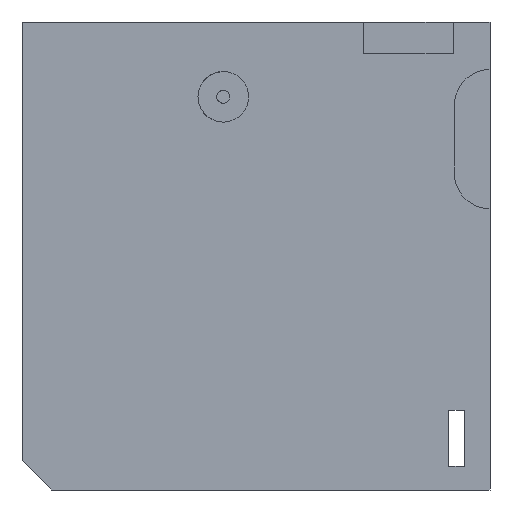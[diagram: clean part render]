
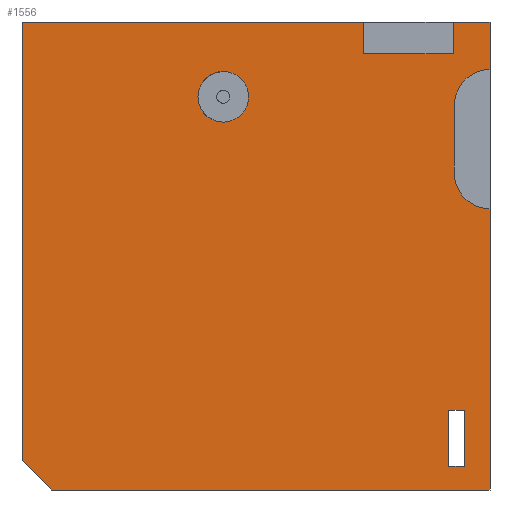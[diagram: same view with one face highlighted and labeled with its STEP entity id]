
A CAD part, left-side view. The second image highlights one B-rep face of the part: STEP entity #1556.
In plain terms, the highlighted planar face has unit normal (-1, 0, 0).
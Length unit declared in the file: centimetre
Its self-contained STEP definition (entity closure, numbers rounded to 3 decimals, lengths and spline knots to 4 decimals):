
#11 = CARTESIAN_POINT ( 'NONE',  ( 0., 1000., 1000. ) ) ;
#12 = EDGE_CURVE ( 'NONE', #433, #1029, #854, .T. ) ;
#51 = VERTEX_POINT ( 'NONE', #863 ) ;
#53 = VECTOR ( 'NONE', #684, 100. ) ;
#64 = EDGE_LOOP ( 'NONE', ( #168, #977, #487, #908, #1196, #983, #1407, #520, #1210, #169, #783, #1074, #1233 ) ) ;
#67 = VERTEX_POINT ( 'NONE', #105 ) ;
#85 = LINE ( 'NONE', #589, #243 ) ;
#92 = DIRECTION ( 'NONE',  ( -1., 0., 0. ) ) ;
#94 = CARTESIAN_POINT ( 'NONE',  ( 0., 0., 677.1642 ) ) ;
#105 = CARTESIAN_POINT ( 'NONE',  ( 0., 936.503, 0. ) ) ;
#121 = DIRECTION ( 'NONE',  ( 1., 0., 0. ) ) ;
#139 = FACE_BOUND ( 'NONE', #1091, .T. ) ;
#154 = DIRECTION ( 'NONE',  ( 0., 0., -1. ) ) ;
#168 = ORIENTED_EDGE ( 'NONE', *, *, #1618, .F. ) ;
#169 = ORIENTED_EDGE ( 'NONE', *, *, #630, .F. ) ;
#173 = LINE ( 'NONE', #561, #1532 ) ;
#177 = VERTEX_POINT ( 'NONE', #486 ) ;
#210 = DIRECTION ( 'NONE',  ( -1., 0., 0. ) ) ;
#220 = CARTESIAN_POINT ( 'NONE',  ( 0., 54.7477, 50.3435 ) ) ;
#230 = CARTESIAN_POINT ( 'NONE',  ( 0., 569.9859, 786.0383 ) ) ;
#243 = VECTOR ( 'NONE', #1102, 100. ) ;
#254 = EDGE_CURVE ( 'NONE', #847, #971, #1513, .T. ) ;
#268 = AXIS2_PLACEMENT_3D ( 'NONE', #1220, #210, #1598 ) ;
#271 = VECTOR ( 'NONE', #1232, 100. ) ;
#275 = LINE ( 'NONE', #658, #774 ) ;
#284 = CARTESIAN_POINT ( 'NONE',  ( 0., 54.7477, 50.3435 ) ) ;
#305 = VERTEX_POINT ( 'NONE', #220 ) ;
#306 = EDGE_CURVE ( 'NONE', #475, #51, #1109, .T. ) ;
#324 = VECTOR ( 'NONE', #1605, 100. ) ;
#326 = DIRECTION ( 'NONE',  ( 0., -1., 0. ) ) ;
#332 = ORIENTED_EDGE ( 'NONE', *, *, #726, .F. ) ;
#344 = DIRECTION ( 'NONE',  ( 0., 0., -1. ) ) ;
#348 = VECTOR ( 'NONE', #725, 100. ) ;
#352 = DIRECTION ( 'NONE',  ( 0., -1., 0. ) ) ;
#359 = EDGE_CURVE ( 'NONE', #1023, #305, #1243, .T. ) ;
#360 = FACE_OUTER_BOUND ( 'NONE', #64, .T. ) ;
#372 = EDGE_LOOP ( 'NONE', ( #332, #1444 ) ) ;
#390 = CARTESIAN_POINT ( 'NONE',  ( 0., 1000., 63.497 ) ) ;
#396 = CARTESIAN_POINT ( 'NONE',  ( 0., 78.6431, 1000. ) ) ;
#402 = EDGE_CURVE ( 'NONE', #305, #941, #1536, .T. ) ;
#423 = VECTOR ( 'NONE', #344, 100. ) ;
#432 = VERTEX_POINT ( 'NONE', #390 ) ;
#433 = VERTEX_POINT ( 'NONE', #775 ) ;
#448 = CARTESIAN_POINT ( 'NONE',  ( 0., 1000., 1000. ) ) ;
#460 = CARTESIAN_POINT ( 'NONE',  ( 0., 76.2309, 677.1642 ) ) ;
#472 = CARTESIAN_POINT ( 'NONE',  ( 0., 1000., 1000. ) ) ;
#475 = VERTEX_POINT ( 'NONE', #396 ) ;
#478 = AXIS2_PLACEMENT_3D ( 'NONE', #11, #121, #617 ) ;
#486 = CARTESIAN_POINT ( 'NONE',  ( 0., 0., 898.4406 ) ) ;
#487 = ORIENTED_EDGE ( 'NONE', *, *, #712, .F. ) ;
#494 = EDGE_CURVE ( 'NONE', #780, #1023, #173, .T. ) ;
#505 = DIRECTION ( 'NONE',  ( 0., 0., 1. ) ) ;
#507 = AXIS2_PLACEMENT_3D ( 'NONE', #94, #760, #1474 ) ;
#520 = ORIENTED_EDGE ( 'NONE', *, *, #997, .F. ) ;
#528 = VERTEX_POINT ( 'NONE', #821 ) ;
#541 = DIRECTION ( 'NONE',  ( 0., -1., 0. ) ) ;
#561 = CARTESIAN_POINT ( 'NONE',  ( 0., 54.7477, 170.417 ) ) ;
#582 = CARTESIAN_POINT ( 'NONE',  ( 0., 88.2462, 170.417 ) ) ;
#589 = CARTESIAN_POINT ( 'NONE',  ( 0., 1000., 1000. ) ) ;
#595 = DIRECTION ( 'NONE',  ( 0., 0., 1. ) ) ;
#611 = CARTESIAN_POINT ( 'NONE',  ( 0., 270.1484, 931.7722 ) ) ;
#617 = DIRECTION ( 'NONE',  ( 0., 0., -1. ) ) ;
#630 = EDGE_CURVE ( 'NONE', #676, #433, #1308, .T. ) ;
#640 = CIRCLE ( 'NONE', #268, 54.0828 ) ;
#648 = EDGE_CURVE ( 'NONE', #177, #855, #724, .T. ) ;
#658 = CARTESIAN_POINT ( 'NONE',  ( 0., 78.6431, 931.7722 ) ) ;
#676 = VERTEX_POINT ( 'NONE', #829 ) ;
#684 = DIRECTION ( 'NONE',  ( 0., -1., 0. ) ) ;
#712 = EDGE_CURVE ( 'NONE', #855, #847, #1351, .T. ) ;
#714 = VERTEX_POINT ( 'NONE', #1362 ) ;
#722 = VECTOR ( 'NONE', #505, 100. ) ;
#723 = EDGE_CURVE ( 'NONE', #51, #177, #969, .T. ) ;
#724 = CIRCLE ( 'NONE', #1093, 76.2309 ) ;
#725 = DIRECTION ( 'NONE',  ( 0., -0.707, -0.707 ) ) ;
#726 = EDGE_CURVE ( 'NONE', #1505, #749, #640, .T. ) ;
#749 = VERTEX_POINT ( 'NONE', #230 ) ;
#760 = DIRECTION ( 'NONE',  ( -1., 0., 0. ) ) ;
#770 = EDGE_CURVE ( 'NONE', #528, #475, #976, .T. ) ;
#774 = VECTOR ( 'NONE', #326, 100. ) ;
#775 = CARTESIAN_POINT ( 'NONE',  ( 0., 270.1484, 1000. ) ) ;
#778 = VECTOR ( 'NONE', #352, 100. ) ;
#780 = VERTEX_POINT ( 'NONE', #582 ) ;
#782 = CARTESIAN_POINT ( 'NONE',  ( 0., 0., 1000. ) ) ;
#783 = ORIENTED_EDGE ( 'NONE', *, *, #1438, .T. ) ;
#821 = CARTESIAN_POINT ( 'NONE',  ( 0., 78.6431, 931.7722 ) ) ;
#829 = CARTESIAN_POINT ( 'NONE',  ( 0., 1000., 1000. ) ) ;
#838 = DIRECTION ( 'NONE',  ( -1., 0., 0. ) ) ;
#839 = CARTESIAN_POINT ( 'NONE',  ( 0., 76.2309, 822.2098 ) ) ;
#841 = LINE ( 'NONE', #850, #348 ) ;
#847 = VERTEX_POINT ( 'NONE', #460 ) ;
#850 = CARTESIAN_POINT ( 'NONE',  ( 0., 1000., 63.497 ) ) ;
#853 = CARTESIAN_POINT ( 'NONE',  ( 0., 78.6431, 931.7722 ) ) ;
#854 = LINE ( 'NONE', #611, #271 ) ;
#855 = VERTEX_POINT ( 'NONE', #992 ) ;
#863 = CARTESIAN_POINT ( 'NONE',  ( 0., 0., 1000. ) ) ;
#873 = CARTESIAN_POINT ( 'NONE',  ( 0., 1000., 0. ) ) ;
#908 = ORIENTED_EDGE ( 'NONE', *, *, #648, .F. ) ;
#927 = VECTOR ( 'NONE', #1251, 100. ) ;
#934 = EDGE_CURVE ( 'NONE', #941, #780, #1147, .T. ) ;
#941 = VERTEX_POINT ( 'NONE', #1122 ) ;
#969 = LINE ( 'NONE', #1582, #423 ) ;
#971 = VERTEX_POINT ( 'NONE', #1051 ) ;
#976 = LINE ( 'NONE', #853, #1612 ) ;
#977 = ORIENTED_EDGE ( 'NONE', *, *, #254, .F. ) ;
#983 = ORIENTED_EDGE ( 'NONE', *, *, #306, .F. ) ;
#992 = CARTESIAN_POINT ( 'NONE',  ( 0., 76.2309, 822.2098 ) ) ;
#997 = EDGE_CURVE ( 'NONE', #1029, #528, #275, .T. ) ;
#1004 = VECTOR ( 'NONE', #154, 100. ) ;
#1023 = VERTEX_POINT ( 'NONE', #1463 ) ;
#1029 = VERTEX_POINT ( 'NONE', #1284 ) ;
#1051 = CARTESIAN_POINT ( 'NONE',  ( 0., 0., 600.9333 ) ) ;
#1062 = DIRECTION ( 'NONE',  ( 0., 0., 1. ) ) ;
#1074 = ORIENTED_EDGE ( 'NONE', *, *, #1184, .T. ) ;
#1089 = CARTESIAN_POINT ( 'NONE',  ( 0., 0., 822.2098 ) ) ;
#1091 = EDGE_LOOP ( 'NONE', ( #1616, #1539, #1302, #1187 ) ) ;
#1093 = AXIS2_PLACEMENT_3D ( 'NONE', #1089, #838, #1062 ) ;
#1102 = DIRECTION ( 'NONE',  ( 0., 0., -1. ) ) ;
#1109 = LINE ( 'NONE', #472, #778 ) ;
#1117 = EDGE_CURVE ( 'NONE', #749, #1505, #1296, .T. ) ;
#1122 = CARTESIAN_POINT ( 'NONE',  ( 0., 88.2462, 50.3435 ) ) ;
#1128 = CARTESIAN_POINT ( 'NONE',  ( 0., 54.7477, 50.3435 ) ) ;
#1133 = PLANE ( 'NONE',  #478 ) ;
#1136 = CARTESIAN_POINT ( 'NONE',  ( 0., 88.2462, 50.3435 ) ) ;
#1145 = VECTOR ( 'NONE', #1629, 100. ) ;
#1147 = LINE ( 'NONE', #1136, #722 ) ;
#1184 = EDGE_CURVE ( 'NONE', #432, #67, #841, .T. ) ;
#1187 = ORIENTED_EDGE ( 'NONE', *, *, #494, .T. ) ;
#1196 = ORIENTED_EDGE ( 'NONE', *, *, #723, .F. ) ;
#1210 = ORIENTED_EDGE ( 'NONE', *, *, #12, .F. ) ;
#1220 = CARTESIAN_POINT ( 'NONE',  ( 0., 569.9859, 840.1211 ) ) ;
#1232 = DIRECTION ( 'NONE',  ( 0., 0., -1. ) ) ;
#1233 = ORIENTED_EDGE ( 'NONE', *, *, #1552, .T. ) ;
#1234 = CARTESIAN_POINT ( 'NONE',  ( 0., 569.9859, 840.1211 ) ) ;
#1243 = LINE ( 'NONE', #1128, #1145 ) ;
#1251 = DIRECTION ( 'NONE',  ( 0., -1., 0. ) ) ;
#1258 = FACE_BOUND ( 'NONE', #372, .T. ) ;
#1275 = VECTOR ( 'NONE', #1289, 100. ) ;
#1284 = CARTESIAN_POINT ( 'NONE',  ( 0., 270.1484, 931.7722 ) ) ;
#1289 = DIRECTION ( 'NONE',  ( 0., 1., 0. ) ) ;
#1296 = CIRCLE ( 'NONE', #1511, 54.0828 ) ;
#1302 = ORIENTED_EDGE ( 'NONE', *, *, #934, .T. ) ;
#1308 = LINE ( 'NONE', #448, #53 ) ;
#1351 = LINE ( 'NONE', #839, #324 ) ;
#1362 = CARTESIAN_POINT ( 'NONE',  ( 0., 0., 0. ) ) ;
#1381 = CARTESIAN_POINT ( 'NONE',  ( 0., 569.9859, 894.2039 ) ) ;
#1407 = ORIENTED_EDGE ( 'NONE', *, *, #770, .F. ) ;
#1438 = EDGE_CURVE ( 'NONE', #676, #432, #85, .T. ) ;
#1444 = ORIENTED_EDGE ( 'NONE', *, *, #1117, .F. ) ;
#1463 = CARTESIAN_POINT ( 'NONE',  ( 0., 54.7477, 170.417 ) ) ;
#1474 = DIRECTION ( 'NONE',  ( 0., 0., 1. ) ) ;
#1475 = DIRECTION ( 'NONE',  ( 0., 0., 1. ) ) ;
#1505 = VERTEX_POINT ( 'NONE', #1381 ) ;
#1511 = AXIS2_PLACEMENT_3D ( 'NONE', #1234, #92, #595 ) ;
#1513 = CIRCLE ( 'NONE', #507, 76.2309 ) ;
#1520 = LINE ( 'NONE', #873, #927 ) ;
#1532 = VECTOR ( 'NONE', #541, 100. ) ;
#1536 = LINE ( 'NONE', #284, #1275 ) ;
#1539 = ORIENTED_EDGE ( 'NONE', *, *, #402, .T. ) ;
#1540 = LINE ( 'NONE', #782, #1004 ) ;
#1552 = EDGE_CURVE ( 'NONE', #67, #714, #1520, .T. ) ;
#1556 = ADVANCED_FACE ( 'NONE', ( #1258, #139, #360 ), #1133, .F. ) ;
#1582 = CARTESIAN_POINT ( 'NONE',  ( 0., 0., 1000. ) ) ;
#1598 = DIRECTION ( 'NONE',  ( 0., 0., 1. ) ) ;
#1605 = DIRECTION ( 'NONE',  ( 0., 0., -1. ) ) ;
#1612 = VECTOR ( 'NONE', #1475, 100. ) ;
#1616 = ORIENTED_EDGE ( 'NONE', *, *, #359, .T. ) ;
#1618 = EDGE_CURVE ( 'NONE', #971, #714, #1540, .T. ) ;
#1629 = DIRECTION ( 'NONE',  ( 0., 0., -1. ) ) ;
